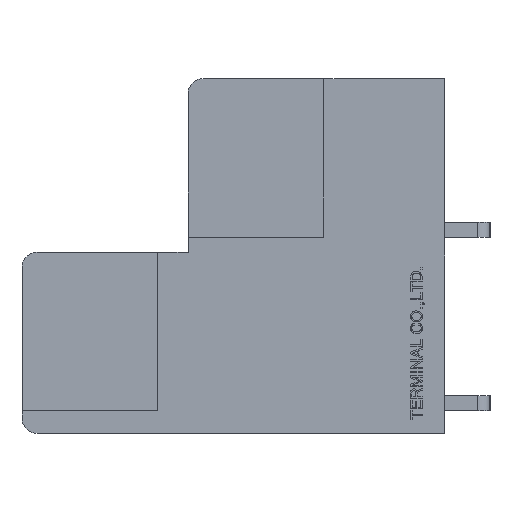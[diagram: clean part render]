
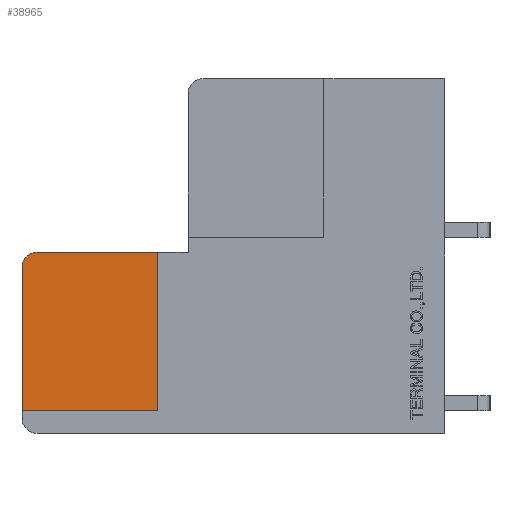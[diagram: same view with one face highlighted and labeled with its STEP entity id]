
A CAD part, left-side view. The second image highlights one B-rep face of the part: STEP entity #38965.
In plain terms, the highlighted planar face has unit normal (-1, 0, 0).
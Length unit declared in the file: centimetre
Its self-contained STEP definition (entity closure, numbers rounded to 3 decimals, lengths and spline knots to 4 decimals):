
#489=CIRCLE('',#66503,0.1);
#2375=VERTEX_POINT('',#52011);
#2376=VERTEX_POINT('',#52012);
#2379=VERTEX_POINT('',#52020);
#2381=VERTEX_POINT('',#52026);
#2382=VERTEX_POINT('',#52028);
#6474=VECTOR('',#43391,1.);
#6478=VECTOR('',#43396,1.);
#6481=VECTOR('',#43400,1.);
#6482=VECTOR('',#43403,1.);
#11091=LINE('',#52010,#6474);
#11095=LINE('',#52019,#6478);
#11098=LINE('',#52025,#6481);
#11099=LINE('',#52029,#6482);
#15812=EDGE_CURVE('',#2375,#2376,#11091,.T.);
#15816=EDGE_CURVE('',#2379,#2375,#11095,.T.);
#15819=EDGE_CURVE('',#2381,#2376,#11098,.T.);
#15820=EDGE_CURVE('',#2382,#2381,#489,.T.);
#15821=EDGE_CURVE('',#2379,#2382,#11099,.T.);
#22263=ORIENTED_EDGE('',*,*,#15816,.T.);
#22264=ORIENTED_EDGE('',*,*,#15812,.T.);
#22265=ORIENTED_EDGE('',*,*,#15819,.F.);
#22266=ORIENTED_EDGE('',*,*,#15820,.F.);
#22267=ORIENTED_EDGE('',*,*,#15821,.F.);
#33879=EDGE_LOOP('',(#22263,#22264,#22265,#22266,#22267));
#36424=FACE_BOUND('',#33879,.T.);
#38965=ADVANCED_FACE('',(#36424),#41260,.F.);
#41260=PLANE('',#66502);
#43391=DIRECTION('',(0.,0.,1.));
#43396=DIRECTION('',(0.,-1.,0.));
#43399=DIRECTION('',(1.,0.,0.));
#43400=DIRECTION('',(0.,-1.,0.));
#43401=DIRECTION('',(1.,0.,0.));
#43402=DIRECTION('',(0.,0.,-0.1));
#43403=DIRECTION('',(0.,0.,1.));
#52010=CARTESIAN_POINT('',(-1.76,-0.145,0.0375));
#52011=CARTESIAN_POINT('',(-1.76,-0.145,-0.45));
#52012=CARTESIAN_POINT('',(-1.76,-0.145,0.6));
#52019=CARTESIAN_POINT('',(-1.76,-0.1777,-0.45));
#52020=CARTESIAN_POINT('',(-1.76,0.755,-0.45));
#52024=CARTESIAN_POINT('',(-1.76,-0.6604,0.));
#52025=CARTESIAN_POINT('',(-1.76,0.655,0.6));
#52026=CARTESIAN_POINT('',(-1.76,0.655,0.6));
#52027=CARTESIAN_POINT('',(-1.76,0.655,0.5));
#52028=CARTESIAN_POINT('',(-1.76,0.755,0.5));
#52029=CARTESIAN_POINT('',(-1.76,0.755,-0.5));
#66502=AXIS2_PLACEMENT_3D('',#52024,#43399,$);
#66503=AXIS2_PLACEMENT_3D('',#52027,#43401,#43402);
